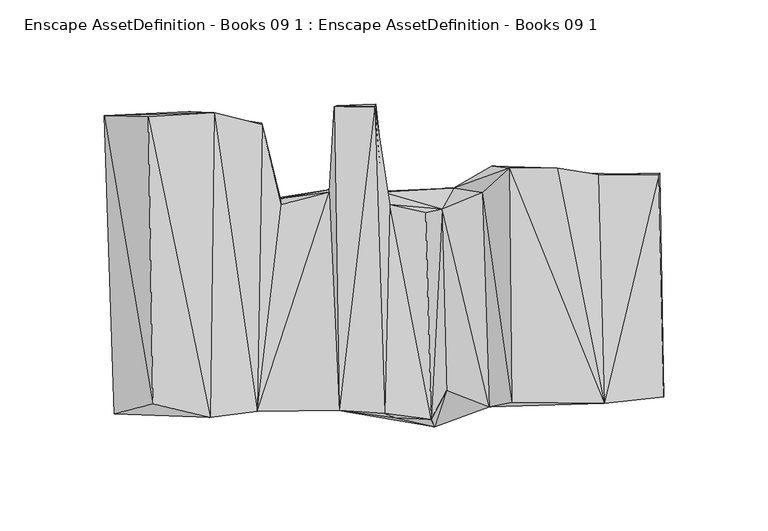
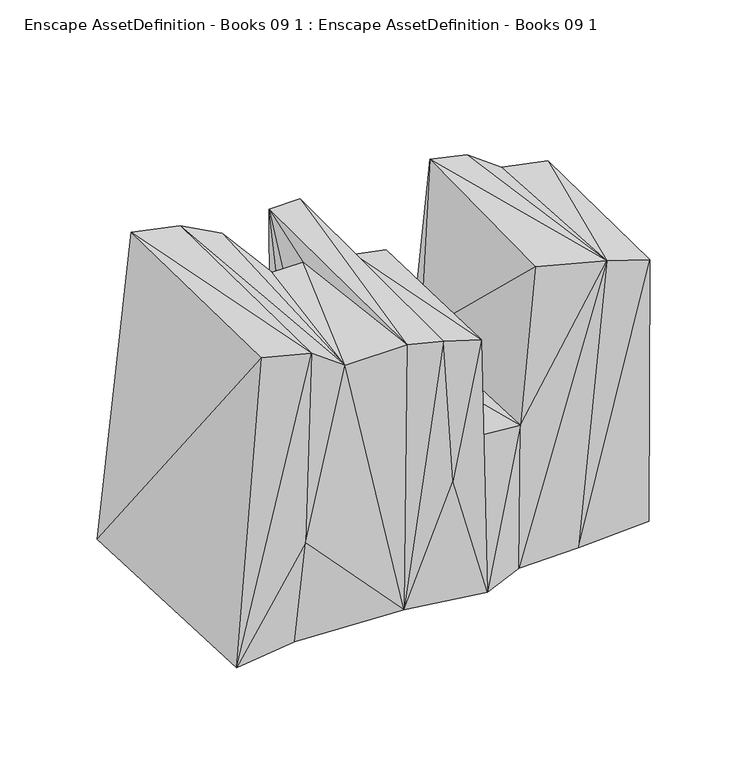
"""IFC4 building model written with IfcOpenShell, lengths in millimetres: geographic element geometry, Enscape AssetDefinition - Books 09 1 : Enscape AssetDefinition - Books 09 1."""

from ifc_helpers import new_model, si_unit, origin, place, context, project, spatial, faceted_brep, source, transform, mapped, element, save


def enscape_assetdefinition_books_09_1_enscape_assetdefinition_3c5f9357(model_context):
    return source(origin(), model_context, "Body", "Brep", [
        faceted_brep([(-59.3959987, 71.0970014, 0.0), (-55.8440015, 32.1170017, 0.0), (-90.5359983, -63.1479993, 0.0), (-50.8809984, 35.1609997, 29.7689997), (-26.6500004, 37.227001, 0.0), (-23.9310004, -66.8250024, 0.0), (-26.6100001, 39.0719995, 105.8500037), (-50.3519997, 34.7779989, 116.3590029), (-26.9729998, 37.9090011, 168.4750021), (-24.3919995, 78.873001, 177.7539998), (-59.1289997, 70.1270029, 179.4440001), (-49.8239994, 31.7780003, 173.5009998), (-61.3950007, -67.5520003, 176.0039926), (-22.1570004, -67.152001, 175.6020039), (-23.2459996, 79.4039965, 0.0), (-4.9740002, 78.9770037, 177.8170019), (-0.13, -68.6549991, 171.0630059), (-4.6290001, 80.1850036, 0.0), (2.196, 31.9069996, 167.1530008), (-1.0779999, 37.7210006, 70.5650002), (-0.064, 38.288001, 0.0), (27.3410007, 29.5940004, 93.735002), (33.0130011, 39.7469997, 0.0), (19.5390005, 28.0259997, 166.4409935), (22.0950004, -71.4960024, 166.1539972), (46.746999, 37.5109985, 96.0059986), (50.0449985, -65.4089972, 95.7640037), (29.6010002, -57.6249994, 91.7619988), (23.9220001, -75.0249997, 0.0), (4.6870001, -70.8409995, 77.8509974), (60.7500002, -63.3120015, 196.0110068), (105.2339971, -63.7459978, 184.543997), (49.9190018, -63.9180019, 0.0), (59.5449992, 49.2490008, 199.3899941), (82.7239975, 49.2639989, 194.2629963), (51.0959998, 50.2340011, 0.0), (55.1179983, 0.606, 0.0), (79.5940012, 45.7529984, 0.0), (102.4049968, 46.1330004, 181.1379939), (96.4519978, 46.8919985, 78.3369988), (131.4959973, 45.8969995, 175.5210012), (78.3749968, -54.9959987, 0.0), (87.7010003, -63.4789988, 0.0), (132.0160031, 46.9390005, 0.0), (133.9419931, -60.7820004, 173.6290008), (133.4909946, -60.5130009, 0.0), (-86.3780007, -67.9600015, 67.2750026), (-84.0459988, -70.4469979, 193.5179979), (-130.1880032, -68.7759966, 0.0), (-135.0769997, 74.5780021, 0.0), (-111.6930023, -64.0359968, 196.3070035), (-113.865003, 74.1799995, 196.7130005), (-82.1160004, 76.1179999, 188.7640059), (-94.6540013, 76.5239969, 0.0)], [[[0, 1, 2]], [[3, 4, 1]], [[2, 1, 5]], [[1, 4, 5]], [[1, 0, 3]], [[6, 4, 3]], [[3, 0, 7]], [[7, 6, 3]], [[8, 6, 7]], [[9, 4, 6]], [[8, 9, 6]], [[0, 10, 7]], [[7, 10, 11]], [[8, 7, 11]], [[8, 12, 13]], [[8, 11, 12]], [[9, 8, 13]], [[9, 14, 4]], [[15, 9, 13]], [[9, 15, 14]], [[13, 12, 5]], [[16, 13, 5]], [[16, 15, 13]], [[15, 17, 14]], [[15, 18, 19]], [[15, 19, 17]], [[18, 15, 16]], [[17, 20, 14]], [[14, 20, 4]], [[20, 17, 19]], [[21, 22, 19]], [[19, 22, 20]], [[18, 21, 19]], [[23, 21, 18]], [[23, 18, 24]], [[24, 18, 16]], [[23, 24, 21]], [[25, 21, 26]], [[21, 24, 27]], [[26, 21, 27]], [[25, 22, 21]], [[27, 24, 28]], [[24, 16, 29]], [[24, 29, 28]], [[28, 26, 27]], [[25, 26, 30]], [[31, 26, 32]], [[30, 26, 31]], [[26, 28, 32]], [[33, 22, 25]], [[30, 33, 25]], [[33, 30, 31]], [[34, 33, 31]], [[34, 35, 33]], [[33, 35, 22]], [[20, 22, 28]], [[22, 32, 28]], [[22, 35, 32]], [[35, 36, 32]], [[35, 37, 36]], [[37, 35, 34]], [[38, 34, 31]], [[34, 38, 37]], [[37, 38, 39]], [[39, 38, 40]], [[40, 38, 31]], [[40, 37, 39]], [[37, 41, 36]], [[37, 42, 41]], [[40, 43, 37]], [[37, 43, 42]], [[36, 41, 32]], [[42, 32, 41]], [[31, 32, 42]], [[44, 42, 45]], [[31, 42, 44]], [[43, 45, 42]], [[40, 44, 43]], [[43, 44, 45]], [[40, 31, 44]], [[29, 5, 28]], [[5, 20, 28]], [[4, 20, 5]], [[5, 46, 2]], [[12, 46, 5]], [[16, 5, 29]], [[46, 47, 48]], [[48, 2, 46]], [[12, 47, 46]], [[0, 2, 49]], [[48, 49, 2]], [[47, 50, 48]], [[49, 48, 50]], [[51, 50, 47]], [[52, 51, 47]], [[12, 52, 47]], [[51, 49, 50]], [[53, 0, 49]], [[52, 53, 49]], [[51, 52, 49]], [[53, 10, 0]], [[52, 10, 53]], [[52, 12, 10]], [[10, 12, 11]]]),
    ])


if __name__ == "__main__":
    model = new_model("IFC4")
    model_context = context("Model", 3, world=origin())
    ifc_project = project(units=[si_unit("LENGTHUNIT", "METRE", prefix="MILLI")], contexts=[model_context])
    site = spatial("IfcSite", under=ifc_project)
    building = spatial("IfcBuilding", under=site)
    placement = place(None, origin())
    enscape_assetdefinition_books_09_1_enscape_assetdefinition_shape = enscape_assetdefinition_books_09_1_enscape_assetdefinition_3c5f9357(model_context)
    element("IfcGeographicElement", 1, ObjectType="Enscape AssetDefinition - Books 09 1 : Enscape AssetDefinition - Books 09 1", at=placement, inside=building, context=model_context, shape_type="MappedRepresentation", body=[
        mapped(enscape_assetdefinition_books_09_1_enscape_assetdefinition_shape, transform((0.0, 0.0, 0.0), x_axis=(1.0, 0.0, 0.0), y_axis=(0.0, 1.0, 0.0), z_axis=(0.0, 0.0, 1.0))),
    ])
    save(model, "model.ifc")
